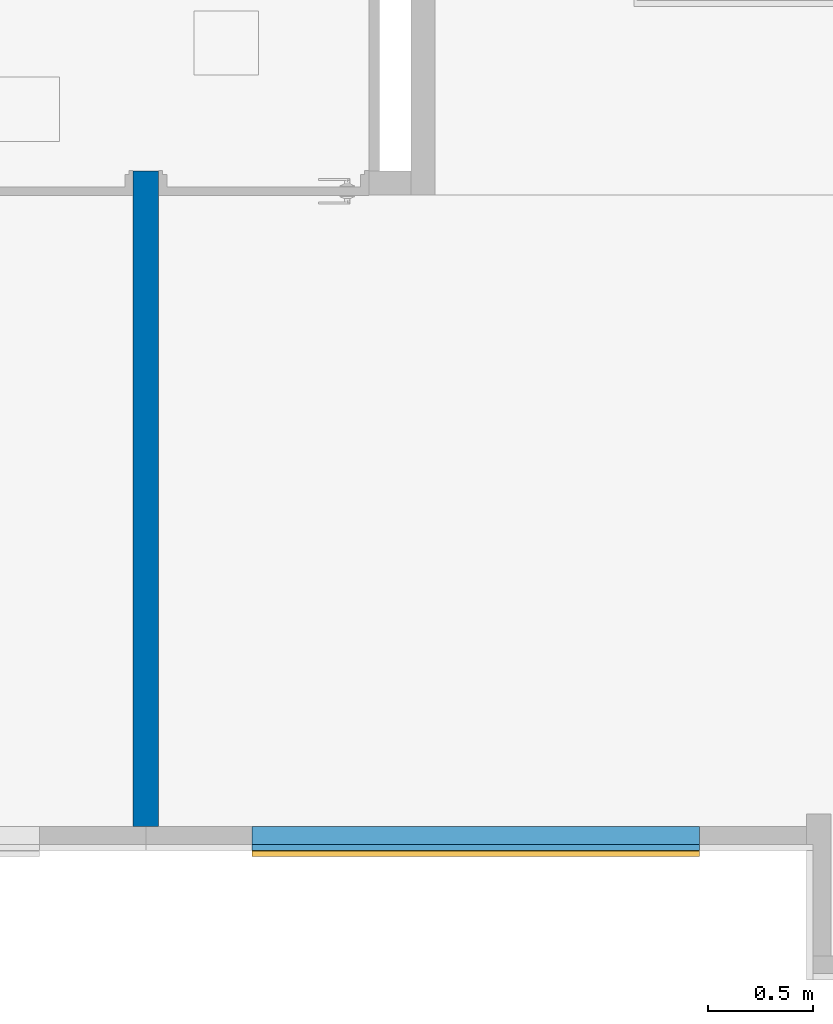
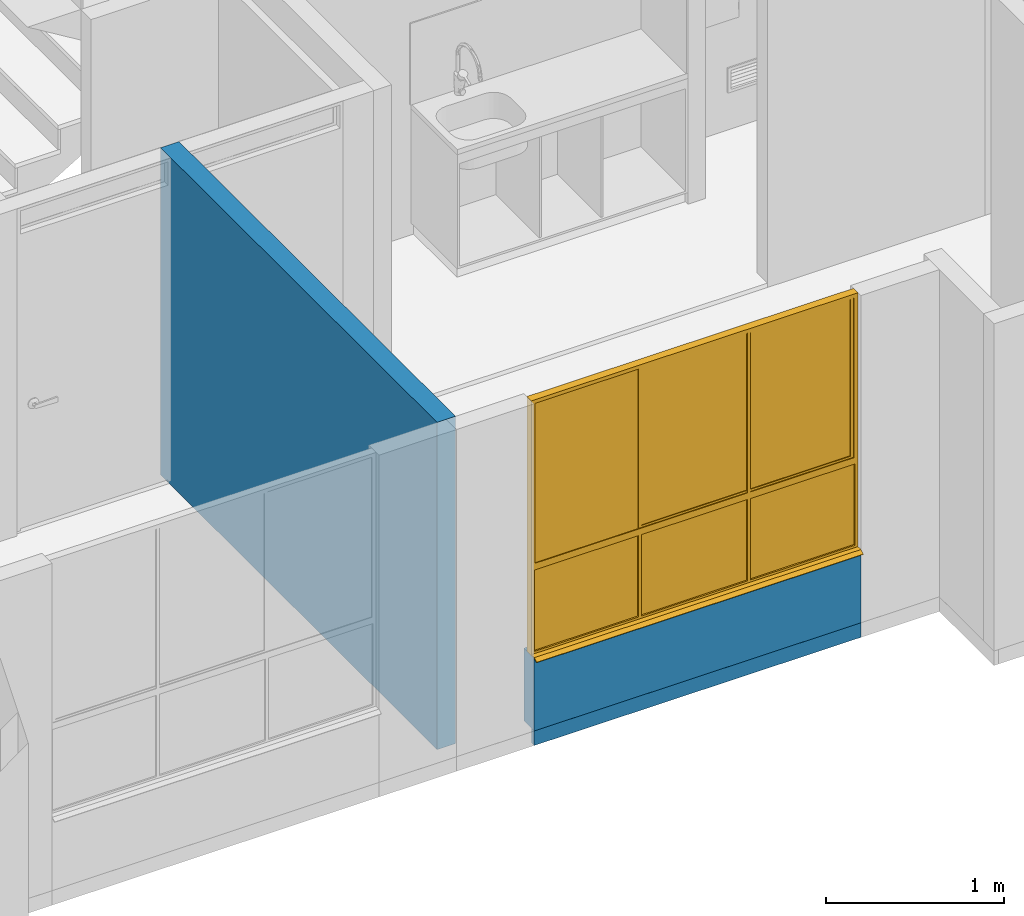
# One storey, part 9 of 48: 3 walls, 1 window, 1 opening.
"""IFC4 building model written with IfcOpenShell, lengths in metres."""

from ifc_helpers import new_model, entity, si_unit, converted_unit, derived_unit, direction, frame, origin, place, context, subcontext, project, spatial, indexed_curve, outline, extrude, polygons, source, transform, mapped, material, constituent, constituent_set, type_object, type_shapes, element, fill, save


model = new_model("IFC4")

# Units and contexts
model_context = context("Model", 3, precision=1e-05, world=origin(), true_north=direction((6.123031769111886e-17, 1.0)))
body_context = subcontext(model_context, "Body", "Model", "MODEL_VIEW")
ifc_project = project(units=[si_unit("LENGTHUNIT", "METRE"), si_unit("AREAUNIT", "SQUARE_METRE"), si_unit("VOLUMEUNIT", "CUBIC_METRE"), converted_unit("PLANEANGLEUNIT", "DEGREE", entity("IfcRatioMeasure", 0.017453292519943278), si_unit("PLANEANGLEUNIT", "RADIAN"), dimensions=[0, 0, 0, 0, 0, 0, 0]), si_unit("MASSUNIT", "GRAM", prefix="KILO"), derived_unit("MASSDENSITYUNIT", [(si_unit("MASSUNIT", "GRAM", prefix="KILO"), 1), (si_unit("LENGTHUNIT", "METRE"), -3)]), derived_unit("IONCONCENTRATIONUNIT", [(si_unit("MASSUNIT", "GRAM", prefix="KILO"), 1), (si_unit("LENGTHUNIT", "METRE"), -3)]), derived_unit("MOMENTOFINERTIAUNIT", [(si_unit("LENGTHUNIT", "METRE"), 4)]), si_unit("TIMEUNIT", "SECOND"), si_unit("FREQUENCYUNIT", "HERTZ"), si_unit("THERMODYNAMICTEMPERATUREUNIT", "DEGREE_CELSIUS"), derived_unit("THERMALTRANSMITTANCEUNIT", [(si_unit("MASSUNIT", "GRAM", prefix="KILO"), 1), (si_unit("THERMODYNAMICTEMPERATUREUNIT", "KELVIN"), -1), (si_unit("TIMEUNIT", "SECOND"), -3)]), derived_unit("THERMALCONDUCTANCEUNIT", [(si_unit("MASSUNIT", "GRAM", prefix="KILO"), 1), (si_unit("THERMODYNAMICTEMPERATUREUNIT", "KELVIN"), -1), (si_unit("TIMEUNIT", "SECOND"), -3), (si_unit("LENGTHUNIT", "METRE"), 1)]), derived_unit("VOLUMETRICFLOWRATEUNIT", [(si_unit("LENGTHUNIT", "METRE"), 3), (si_unit("TIMEUNIT", "SECOND"), -1)]), derived_unit("MASSFLOWRATEUNIT", [(si_unit("MASSUNIT", "GRAM", prefix="KILO"), 1), (si_unit("TIMEUNIT", "SECOND"), -1)]), derived_unit("ROTATIONALFREQUENCYUNIT", [(si_unit("TIMEUNIT", "SECOND"), -1)]), si_unit("ELECTRICCURRENTUNIT", "AMPERE"), si_unit("ELECTRICVOLTAGEUNIT", "VOLT"), si_unit("POWERUNIT", "WATT"), si_unit("FORCEUNIT", "NEWTON", prefix="KILO"), si_unit("ILLUMINANCEUNIT", "LUX"), si_unit("LUMINOUSFLUXUNIT", "LUMEN"), si_unit("LUMINOUSINTENSITYUNIT", "CANDELA"), derived_unit("USERDEFINED", [(si_unit("MASSUNIT", "GRAM", prefix="KILO"), -1), (si_unit("LENGTHUNIT", "METRE"), -2), (si_unit("TIMEUNIT", "SECOND"), 3), (si_unit("LUMINOUSFLUXUNIT", "LUMEN"), 1)]), derived_unit("USERDEFINED", [(si_unit("MASSUNIT", "GRAM", prefix="KILO"), 1), (si_unit("TIMEUNIT", "SECOND"), -3), (si_unit("LENGTHUNIT", "METRE"), 3), (si_unit("ELECTRICCURRENTUNIT", "AMPERE"), -2)]), derived_unit("SOUNDPOWERUNIT", [(si_unit("MASSUNIT", "GRAM", prefix="KILO"), 1), (si_unit("TIMEUNIT", "SECOND"), -3), (si_unit("LENGTHUNIT", "METRE"), 2)]), derived_unit("SOUNDPRESSUREUNIT", [(si_unit("MASSUNIT", "GRAM", prefix="KILO"), 1), (si_unit("LENGTHUNIT", "METRE"), -1), (si_unit("TIMEUNIT", "SECOND"), -2)]), derived_unit("LINEARVELOCITYUNIT", [(si_unit("LENGTHUNIT", "METRE"), 1), (si_unit("TIMEUNIT", "SECOND"), -1)]), si_unit("PRESSUREUNIT", "PASCAL"), derived_unit("USERDEFINED", [(si_unit("MASSUNIT", "GRAM", prefix="KILO"), 1), (si_unit("LENGTHUNIT", "METRE"), -2), (si_unit("TIMEUNIT", "SECOND"), -2)]), derived_unit("LINEARFORCEUNIT", [(si_unit("MASSUNIT", "GRAM", prefix="KILO"), 1), (si_unit("TIMEUNIT", "SECOND"), -2)]), derived_unit("PLANARFORCEUNIT", [(si_unit("MASSUNIT", "GRAM", prefix="KILO"), 1), (si_unit("LENGTHUNIT", "METRE"), -1), (si_unit("TIMEUNIT", "SECOND"), -2)]), derived_unit("SPECIFICHEATCAPACITYUNIT", [(si_unit("THERMODYNAMICTEMPERATUREUNIT", "KELVIN"), -1), (si_unit("LENGTHUNIT", "METRE"), 2), (si_unit("TIMEUNIT", "SECOND"), -2)]), derived_unit("HEATINGVALUEUNIT", [(si_unit("LENGTHUNIT", "METRE"), 2), (si_unit("TIMEUNIT", "SECOND"), -2)]), derived_unit("VAPORPERMEABILITYUNIT", [(si_unit("LENGTHUNIT", "METRE"), -1), (si_unit("TIMEUNIT", "SECOND"), 1)]), derived_unit("DYNAMICVISCOSITYUNIT", [(si_unit("MASSUNIT", "GRAM", prefix="KILO"), 1), (si_unit("TIMEUNIT", "SECOND"), -1), (si_unit("LENGTHUNIT", "METRE"), -1)]), derived_unit("THERMALEXPANSIONCOEFFICIENTUNIT", [(si_unit("THERMODYNAMICTEMPERATUREUNIT", "KELVIN"), -1)]), derived_unit("MODULUSOFELASTICITYUNIT", [(si_unit("MASSUNIT", "GRAM", prefix="KILO"), 1), (si_unit("LENGTHUNIT", "METRE"), -1), (si_unit("TIMEUNIT", "SECOND"), -2)]), derived_unit("ISOTHERMALMOISTURECAPACITYUNIT", [(si_unit("LENGTHUNIT", "METRE"), 3), (si_unit("MASSUNIT", "GRAM", prefix="KILO"), -1)]), derived_unit("MOISTUREDIFFUSIVITYUNIT", [(si_unit("TIMEUNIT", "SECOND"), -1), (si_unit("LENGTHUNIT", "METRE"), 2)])], contexts=[model_context])

# Site, building, storey
site_placement = place(None, origin())
site = spatial("IfcSite", under=ifc_project, at=site_placement, Name="Default", CompositionType="ELEMENT")
building_placement = place(site_placement, origin())
building = spatial("IfcBuilding", under=site, at=building_placement, CompositionType="ELEMENT")
storey_placement = place(building_placement, frame((0.0, 0.0, 9.40000000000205)))
storey = spatial("IfcBuildingStorey", under=building, at=storey_placement, Name="Nivel 5", CompositionType="ELEMENT", Elevation=9.40000000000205)

# Wall
ifc_material_1 = material(Name="Concreto (Aire)", Category="Materials")
wall_type_1 = type_object("IfcWallType", Name="Basic Wall:B2010 - 0.12m - Muro interior en concreto", PredefinedType="STANDARD")
wall_1_placement = place(storey_placement, frame((9.322500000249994, -9.024999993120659, 0.0), z_axis=(0.0, 0.0, 1.0), x_axis=(0.0, -1.0, 0.0)))
element("IfcWall", 1, at=wall_1_placement, inside=storey, type_object=wall_type_1, material=ifc_material_1, Name="Basic Wall:B2010 - 0.12m - Muro interior en concreto", ObjectType="Basic Wall:B2010 - 0.12m - Muro interior en concreto", PredefinedType="NOTDEFINED", context=body_context, shape_type="SweptSolid", body=[
    extrude(outline(indexed_curve([(3.1150000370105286, 0.06000000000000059), (-1.0719303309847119e-16, 0.060000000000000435), (1.0719303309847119e-16, -0.060000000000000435), (3.1150000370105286, -0.06000000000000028), (3.1150000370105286, 0.06000000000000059)], self_intersect=False)), origin(), (0.0, 0.0, 1.0), 2.2500000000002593),
])

# Wall, opening, window
ifc_material_2 = material(Name="Ladrillo claro (Aire)", Category="Materials")
wall_type_2 = type_object("IfcWallType", Name="Basic Wall:B2010 - 0.115m - Muro exterior en mampostería - Ladrillo", PredefinedType="STANDARD")
wall_2_placement = place(storey_placement, frame((11.952500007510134, -12.197500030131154, 0.0), z_axis=(0.0, 0.0, 1.0), x_axis=(-1.0, 0.0, 0.0)))
wall_2 = element("IfcWall", 2, at=wall_2_placement, inside=storey, type_object=wall_type_2, material=ifc_material_2, Name="Basic Wall:B2010 - 0.115m - Muro exterior en mampostería - Ladrillo", ObjectType="Basic Wall:B2010 - 0.115m - Muro exterior en mampostería - Ladrillo", PredefinedType="NOTDEFINED", context=body_context, shape_type="Tessellation", body=[
    polygons([(1.6266871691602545e-15, -0.057499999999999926, -1.0828671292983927e-15), (2.1249999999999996, -0.057499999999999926, -1.0828671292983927e-15), (2.1249999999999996, -0.057499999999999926, 0.5000000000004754), (1.6266871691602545e-15, -0.057499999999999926, 0.5000000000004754), (2.1249999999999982, 0.057499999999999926, -1.0828671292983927e-15), (6.252360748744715e-16, 0.057499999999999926, -1.0828671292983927e-15), (6.252360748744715e-16, 0.057499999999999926, 0.5000000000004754), (2.1249999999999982, 0.057499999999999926, 0.5000000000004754)], [[[1, 2, 3, 4]], [[5, 6, 7, 8]], [[2, 1, 6, 5]], [[2, 5, 8, 3]], [[6, 1, 4, 7]], [[4, 3, 8, 7]]], closed=True),
])
opening_placement = place(wall_2_placement, frame((0.0, -0.057499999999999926, 0.5000000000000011)))
opening = element("IfcOpeningElement", 3, at=opening_placement, cuts=wall_2, Name="B2020 - 6c Ventana corrediza - Aluminio + Vidrio:B2020 -2.13m x 1.750m - Ventana corrediza 2C - Aluminio + Vidrio:1", PredefinedType="OPENING", context=body_context, shape_type="SweptSolid", body=[
    extrude(outline(indexed_curve([(0.0, 2.125), (0.0, 0.0), (1.7499999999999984, 0.0), (1.7499999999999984, 2.125), (0.0, 2.125)], self_intersect=False)), frame((0.0, 0.0, 0.0), z_axis=(0.0, 1.0, 0.0), x_axis=(0.0, 0.0, 1.0)), (0.0, 0.0, 1.0), 0.115),
])
ifc_material_3 = material(Name="Aluminio", Category="Materials")
ifc_constituent_1 = constituent(ifc_material_3, Name="Aluminio", Category="Materials")
ifc_material_4 = material(Name="Vidrio", Category="Materials")
ifc_constituent_2 = constituent(ifc_material_4, Name="Vidrio", Category="Materials")
ifc_material_5 = material(Name="Alfajía en aluminio", Category="Materials")
ifc_constituent_3 = constituent(ifc_material_5, Name="Alfajía en aluminio", Category="Materials")
ifc_constituent_set_1 = constituent_set(constituents=[ifc_constituent_1, ifc_constituent_2, ifc_constituent_3])
ifc_constituent_4 = constituent(ifc_material_3, Name="Aluminio", Category="Materials")
ifc_constituent_5 = constituent(ifc_material_4, Name="Vidrio", Category="Materials")
ifc_constituent_6 = constituent(ifc_material_5, Name="Alfajía en aluminio", Category="Materials")
ifc_constituent_set_2 = constituent_set(constituents=[ifc_constituent_4, ifc_constituent_5, ifc_constituent_6])
window_type = type_object("IfcWindowType", Name="B2020 - 6c Ventana corrediza - Aluminio + Vidrio:B2020 -2.13m x 1.750m - Ventana corrediza 2C - Aluminio + Vidrio", PartitioningType="NOTDEFINED", PredefinedType="WINDOW", material=ifc_constituent_set_2)
shared_shape = source(origin(), body_context, "Body", "Tessellation", [
    polygons([(1.3916666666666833, 0.03749999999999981, 1.7249999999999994), (1.3916666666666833, 0.03749999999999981, 0.6249999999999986), (1.391666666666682, 0.032499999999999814, 0.6249999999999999), (1.3916666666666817, 0.032499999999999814, 1.7249999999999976), (-0.6833333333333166, 0.03249999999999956, 0.6249999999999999), (-0.6833333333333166, 0.032499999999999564, 1.7249999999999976), (-0.7083333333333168, 0.03249999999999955, 0.5999999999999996), (1.4166666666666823, 0.032499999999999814, 0.5999999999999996), (1.4166666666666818, 0.032499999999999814, 1.749999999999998), (-0.7083333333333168, 0.03249999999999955, 1.749999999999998), (-0.6833333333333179, 0.03749999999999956, 0.6249999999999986), (-0.6833333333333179, 0.03749999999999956, 1.7249999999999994), (-0.6883333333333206, 0.03749999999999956, 0.6199999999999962), (-0.6883333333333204, 0.03749999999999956, 1.7300000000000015), (1.3966666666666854, 0.03749999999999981, 1.7300000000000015), (1.3966666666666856, 0.03749999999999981, 0.6199999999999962), (1.3966666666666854, 0.05499999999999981, 1.7300000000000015), (1.3966666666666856, 0.05499999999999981, 0.6199999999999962), (-0.6883333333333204, 0.05499999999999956, 0.6199999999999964), (-0.6883333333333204, 0.05499999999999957, 1.7300000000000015), (-0.6833333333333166, 0.05499999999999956, 0.6249999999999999), (-0.6833333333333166, 0.05499999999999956, 1.7249999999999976), (1.3916666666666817, 0.05499999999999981, 1.7249999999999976), (1.391666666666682, 0.05499999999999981, 0.6249999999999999), (1.3916666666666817, 0.05999999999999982, 1.7249999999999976), (1.391666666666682, 0.05999999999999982, 0.6249999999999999), (-0.6833333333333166, 0.059999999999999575, 0.6249999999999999), (-0.6833333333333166, 0.059999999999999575, 1.7249999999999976), (-0.7033333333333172, 0.05999999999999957, 0.6049999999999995), (-0.7033333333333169, 0.05999999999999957, 1.744999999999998), (1.411666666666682, 0.05999999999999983, 1.744999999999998), (1.4116666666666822, 0.05999999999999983, 0.6049999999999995), (1.411666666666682, 0.07749999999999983, 1.744999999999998), (1.4116666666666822, 0.07749999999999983, 0.6049999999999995), (-0.7033333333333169, 0.07749999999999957, 0.6049999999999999), (-0.7033333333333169, 0.07749999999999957, 1.744999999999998), (-0.6833333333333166, 0.07749999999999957, 0.6249999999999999), (-0.6833333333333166, 0.07749999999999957, 1.7249999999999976), (1.3916666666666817, 0.07749999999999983, 1.7249999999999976), (1.391666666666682, 0.07749999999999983, 0.6249999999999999), (1.3916666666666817, 0.08249999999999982, 1.7249999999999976), (1.391666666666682, 0.08249999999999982, 0.6249999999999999), (-0.6833333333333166, 0.08249999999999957, 0.6249999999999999), (-0.6833333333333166, 0.08249999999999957, 1.7249999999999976), (-0.7083333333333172, 0.08249999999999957, 0.5999999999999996), (-0.7083333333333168, 0.08249999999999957, 1.749999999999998), (1.4166666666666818, 0.08249999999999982, 1.749999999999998), (1.4166666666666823, 0.08249999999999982, 0.5999999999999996)], [[[1, 2, 3, 4]], [[7, 8, 9, 10], [5, 6, 4, 3]], [[2, 11, 5, 3]], [[13, 14, 15, 16], [11, 2, 1, 12]], [[17, 18, 16, 15]], [[18, 19, 13, 16]], [[19, 18, 17, 20], [21, 22, 23, 24]], [[25, 26, 24, 23]], [[26, 27, 21, 24]], [[29, 30, 31, 32], [27, 26, 25, 28]], [[33, 34, 32, 31]], [[34, 35, 29, 32]], [[35, 34, 33, 36], [37, 38, 39, 40]], [[41, 42, 40, 39]], [[42, 43, 37, 40]], [[45, 46, 47, 48], [43, 42, 41, 44]], [[9, 8, 48, 47]], [[8, 7, 45, 48]], [[11, 12, 6, 5]], [[19, 20, 14, 13]], [[27, 28, 22, 21]], [[35, 36, 30, 29]], [[43, 44, 38, 37]], [[7, 10, 46, 45]], [[12, 1, 4, 6]], [[20, 17, 15, 14]], [[28, 25, 23, 22]], [[36, 33, 31, 30]], [[44, 41, 39, 38]], [[10, 9, 47, 46]]], closed=True),
    polygons([(-0.009999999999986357, 0.08249999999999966, 0.6249999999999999), (0.010000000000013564, 0.08249999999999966, 0.6249999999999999), (0.010000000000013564, 0.05999999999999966, 0.6249999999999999), (-0.009999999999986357, 0.05999999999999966, 0.6249999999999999), (-0.009999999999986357, 0.08249999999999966, 1.7249999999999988), (-0.009999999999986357, 0.05999999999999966, 1.7249999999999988), (0.010000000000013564, 0.05999999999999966, 1.7249999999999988), (0.010000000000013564, 0.08249999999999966, 1.7249999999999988)], [[[1, 2, 3, 4]], [[5, 1, 4, 6]], [[6, 4, 3, 7]], [[7, 3, 2, 8]], [[8, 2, 1, 5]], [[5, 6, 7, 8]]], closed=True),
    polygons([(0.7108333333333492, 0.06674999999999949, 1.7299999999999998), (-0.6833333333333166, 0.06674999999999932, 1.7299999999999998), (-0.6833333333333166, 0.06674999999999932, 0.6174999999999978), (0.7108333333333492, 0.06674999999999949, 0.6174999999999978), (0.7108333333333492, 0.0707499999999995, 0.6174999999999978), (0.7108333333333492, 0.0707499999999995, 1.7299999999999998), (-0.6833333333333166, 0.07074999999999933, 0.6174999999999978), (-0.6833333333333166, 0.07074999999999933, 1.7299999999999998)], [[[1, 2, 3, 4]], [[4, 5, 6, 1]], [[3, 7, 5, 4]], [[2, 8, 7, 3]], [[6, 5, 7, 8]], [[1, 6, 8, 2]]], closed=True),
    polygons([(0.7108333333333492, 0.07074999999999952, 0.6225000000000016), (-0.6783333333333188, 0.07074999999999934, 0.6225000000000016), (-0.6783333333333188, 0.06674999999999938, 0.6225000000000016), (0.7108333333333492, 0.06674999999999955, 0.6225000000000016), (-0.6783333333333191, 0.07074999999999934, 1.730000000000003), (-0.6783333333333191, 0.06674999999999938, 1.730000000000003), (0.7108333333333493, 0.06674999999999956, 1.730000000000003), (-0.6633333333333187, 0.06674999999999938, 1.7150000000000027), (-0.6633333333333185, 0.06674999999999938, 0.637500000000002), (0.695833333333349, 0.06674999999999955, 0.637500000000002), (0.695833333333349, 0.06674999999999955, 1.7150000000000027), (0.7108333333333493, 0.07074999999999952, 1.730000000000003), (-0.6633333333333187, 0.07074999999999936, 0.637500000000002), (-0.6633333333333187, 0.07074999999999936, 1.7150000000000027), (0.695833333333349, 0.07074999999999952, 1.7150000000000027), (0.695833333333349, 0.07074999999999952, 0.6375000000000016), (0.695833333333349, 0.07549999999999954, 0.637500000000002), (-0.6633333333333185, 0.07549999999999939, 0.6375000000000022), (-0.6633333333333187, 0.07549999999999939, 1.7150000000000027), (0.695833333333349, 0.07549999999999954, 1.7150000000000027), (-0.6833333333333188, 0.07549999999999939, 0.6175000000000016), (-0.683333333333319, 0.07549999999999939, 1.735000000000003), (0.7158333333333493, 0.07549999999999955, 1.735000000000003), (0.7158333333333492, 0.07549999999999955, 0.6175000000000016), (0.7158333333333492, 0.06199999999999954, 0.6175000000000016), (-0.6833333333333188, 0.061999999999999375, 0.6175000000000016), (-0.683333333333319, 0.061999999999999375, 1.735000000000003), (0.7158333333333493, 0.06199999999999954, 1.735000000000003), (-0.6633333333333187, 0.06199999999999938, 0.637500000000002), (-0.6633333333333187, 0.06199999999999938, 1.7150000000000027), (0.695833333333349, 0.06199999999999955, 1.7150000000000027), (0.695833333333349, 0.06199999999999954, 0.6375000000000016)], [[[1, 2, 3, 4]], [[2, 5, 6, 3]], [[3, 6, 7, 4], [8, 9, 10, 11]], [[5, 2, 1, 12], [13, 14, 15, 16]], [[17, 18, 13, 16]], [[18, 19, 14, 13]], [[21, 22, 23, 24], [19, 18, 17, 20]], [[25, 26, 21, 24]], [[26, 27, 22, 21]], [[27, 26, 25, 28], [29, 30, 31, 32]], [[10, 9, 29, 32]], [[9, 8, 30, 29]], [[12, 1, 4, 7]], [[20, 17, 16, 15]], [[28, 25, 24, 23]], [[11, 10, 32, 31]], [[5, 12, 7, 6]], [[19, 20, 15, 14]], [[27, 28, 23, 22]], [[8, 11, 31, 30]]], closed=True),
    polygons([(1.3916666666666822, 0.04424999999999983, 1.7299999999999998), (0.7033333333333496, 0.04424999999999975, 1.7299999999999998), (0.7033333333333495, 0.04424999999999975, 0.6174999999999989), (1.391666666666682, 0.04424999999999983, 0.6174999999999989), (1.391666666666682, 0.04824999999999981, 0.6174999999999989), (1.3916666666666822, 0.04824999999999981, 1.7299999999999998), (0.7033333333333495, 0.048249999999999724, 0.6174999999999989), (0.7033333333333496, 0.048249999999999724, 1.7299999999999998)], [[[1, 2, 3, 4]], [[4, 5, 6, 1]], [[3, 7, 5, 4]], [[2, 8, 7, 3]], [[6, 5, 7, 8]], [[1, 6, 8, 2]]], closed=True),
    polygons([(1.391666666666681, 0.04824999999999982, 0.6224999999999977), (0.7033333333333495, 0.04824999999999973, 0.6224999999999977), (0.7033333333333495, 0.044249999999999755, 0.6224999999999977), (1.391666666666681, 0.04424999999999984, 0.6224999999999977), (0.7033333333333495, 0.04824999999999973, 1.729999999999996), (0.7033333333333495, 0.044249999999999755, 1.729999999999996), (1.391666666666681, 0.04424999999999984, 1.729999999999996), (0.7183333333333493, 0.044249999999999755, 1.714999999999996), (0.7183333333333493, 0.044249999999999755, 0.6374999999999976), (1.3766666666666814, 0.04424999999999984, 0.6374999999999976), (1.3766666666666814, 0.04424999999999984, 1.714999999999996), (1.391666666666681, 0.04824999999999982, 1.729999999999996), (0.7183333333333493, 0.04824999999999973, 0.6374999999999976), (0.7183333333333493, 0.04824999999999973, 1.714999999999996), (1.3766666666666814, 0.04824999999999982, 1.714999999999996), (1.3766666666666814, 0.04824999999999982, 0.6374999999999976), (1.3766666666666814, 0.052999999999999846, 0.6374999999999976), (0.7183333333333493, 0.05299999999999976, 0.6374999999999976), (0.7183333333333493, 0.05299999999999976, 1.714999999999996), (1.3766666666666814, 0.052999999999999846, 1.714999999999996), (0.6983333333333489, 0.052999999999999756, 0.6174999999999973), (0.6983333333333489, 0.05299999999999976, 1.7349999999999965), (1.3966666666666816, 0.052999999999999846, 1.7349999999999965), (1.3966666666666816, 0.052999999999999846, 0.6174999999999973), (1.3966666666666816, 0.03949999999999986, 0.6174999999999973), (0.6983333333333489, 0.03949999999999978, 0.6174999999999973), (0.6983333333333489, 0.03949999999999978, 1.7349999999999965), (1.3966666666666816, 0.03949999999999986, 1.7349999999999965), (0.7183333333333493, 0.039499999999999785, 0.6374999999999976), (0.7183333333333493, 0.03949999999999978, 1.714999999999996), (1.3766666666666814, 0.039499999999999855, 1.714999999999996), (1.3766666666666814, 0.039499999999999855, 0.6374999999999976)], [[[1, 2, 3, 4]], [[2, 5, 6, 3]], [[3, 6, 7, 4], [8, 9, 10, 11]], [[5, 2, 1, 12], [13, 14, 15, 16]], [[17, 18, 13, 16]], [[18, 19, 14, 13]], [[21, 22, 23, 24], [19, 18, 17, 20]], [[25, 26, 21, 24]], [[26, 27, 22, 21]], [[27, 26, 25, 28], [29, 30, 31, 32]], [[10, 9, 29, 32]], [[9, 8, 30, 29]], [[12, 1, 4, 7]], [[20, 17, 16, 15]], [[28, 25, 24, 23]], [[11, 10, 32, 31]], [[5, 12, 7, 6]], [[19, 20, 15, 14]], [[27, 28, 23, 22]], [[8, 11, 31, 30]]], closed=True),
    polygons([(-0.6883333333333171, 0.04424999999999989, 1.7299999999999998), (-0.6883333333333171, 0.04424999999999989, 0.6174999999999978), (1.3916666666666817, 0.04424999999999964, 0.6174999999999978), (1.3916666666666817, 0.04424999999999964, 1.7299999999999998), (1.3916666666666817, 0.04824999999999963, 0.6174999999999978), (1.3916666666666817, 0.04824999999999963, 1.7299999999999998), (-0.6883333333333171, 0.04824999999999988, 0.6174999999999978), (-0.6883333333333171, 0.04824999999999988, 1.7299999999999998)], [[[1, 2, 3, 4]], [[3, 5, 6, 4]], [[2, 7, 5, 3]], [[1, 8, 7, 2]], [[8, 6, 5, 7]], [[4, 6, 8, 1]]], closed=True),
    polygons([(1.3966666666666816, 0.06674999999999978, 1.7299999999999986), (-0.6883333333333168, 0.06674999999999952, 1.7299999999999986), (-0.6883333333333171, 0.06674999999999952, 0.6174999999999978), (1.3966666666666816, 0.06674999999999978, 0.6174999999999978), (1.3966666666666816, 0.07074999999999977, 0.6174999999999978), (1.3966666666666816, 0.07074999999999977, 1.7299999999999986), (-0.6883333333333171, 0.07074999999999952, 0.6174999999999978), (-0.6883333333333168, 0.07074999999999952, 1.7299999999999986)], [[[1, 2, 3, 4]], [[4, 5, 6, 1]], [[3, 7, 5, 4]], [[2, 8, 7, 3]], [[6, 5, 7, 8]], [[1, 6, 8, 2]]], closed=True),
    polygons([(1.3966666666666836, 0.06813901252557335, 0.5800000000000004), (-0.6883333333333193, 0.06813901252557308, 0.5800000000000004), (-0.6883333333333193, 0.06813901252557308, 0.019999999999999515), (1.3966666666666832, 0.06813901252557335, 0.019999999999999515), (1.3966666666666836, 0.07213901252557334, 0.5800000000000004), (1.3966666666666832, 0.07213901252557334, 0.019999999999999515), (-0.6883333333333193, 0.07213901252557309, 0.019999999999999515), (-0.6883333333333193, 0.07213901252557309, 0.5800000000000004)], [[[1, 2, 3, 4]], [[5, 6, 7, 8]], [[4, 6, 5, 1]], [[3, 7, 6, 4]], [[2, 8, 7, 3]], [[1, 5, 8, 2]]], closed=True),
    polygons([(-0.009999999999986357, 0.08250000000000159, 0.5799999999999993), (-0.009999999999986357, 0.03250000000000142, 0.5799999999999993), (0.010000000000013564, 0.03250000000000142, 0.5799999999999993), (0.010000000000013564, 0.08250000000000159, 0.5799999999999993), (-0.009999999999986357, 0.08250000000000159, 0.019999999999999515), (0.010000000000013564, 0.08250000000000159, 0.019999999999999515), (0.010000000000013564, 0.03250000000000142, 0.019999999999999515), (-0.009999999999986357, 0.03250000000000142, 0.019999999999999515)], [[[1, 2, 3, 4]], [[5, 6, 7, 8]], [[4, 6, 5, 1]], [[3, 7, 6, 4]], [[2, 8, 7, 3]], [[1, 5, 8, 2]]], closed=True),
    polygons([(1.4166666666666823, 0.08249999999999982, 2.707167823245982e-16), (-0.7083333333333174, 0.08249999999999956, 4.060751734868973e-16), (-0.7083333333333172, 0.08249999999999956, 0.5999999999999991), (1.4166666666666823, 0.08249999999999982, 0.5999999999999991), (0.6983333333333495, 0.08250000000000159, 0.5799999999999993), (-0.6883333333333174, 0.0825000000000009, 0.5799999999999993), (-0.6883333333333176, 0.0825000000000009, 0.020000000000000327), (0.6983333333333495, 0.08250000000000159, 0.01999999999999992), (0.7183333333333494, 0.08250000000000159, 0.01999999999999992), (1.3966666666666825, 0.08250000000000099, 0.020000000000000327), (1.3966666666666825, 0.08250000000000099, 0.5799999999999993), (0.7183333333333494, 0.08250000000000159, 0.5799999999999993), (0.7183333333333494, 0.03250000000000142, 0.5799999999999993), (0.7183333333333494, 0.03250000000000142, 0.01999999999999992), (1.4166666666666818, 0.03250000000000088, 0.5999999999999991), (-0.7083333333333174, 0.0325000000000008, 0.5999999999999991), (-0.7083333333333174, 0.0325000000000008, 4.060751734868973e-16), (1.4166666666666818, 0.03250000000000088, 4.060751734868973e-16), (1.3966666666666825, 0.032499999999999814, 0.5799999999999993), (1.3966666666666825, 0.032499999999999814, 0.020000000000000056), (0.6983333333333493, 0.03250000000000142, 0.01999999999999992), (-0.6883333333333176, 0.03249999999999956, 0.020000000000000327), (-0.6883333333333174, 0.03249999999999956, 0.5799999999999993), (0.6983333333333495, 0.03250000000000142, 0.5799999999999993)], [[[1, 2, 3, 4], [5, 6, 7, 8], [9, 10, 11, 12]], [[12, 13, 14, 9]], [[15, 16, 17, 18], [13, 19, 20, 14], [21, 22, 23, 24]], [[8, 21, 24, 5]], [[11, 10, 20, 19]], [[15, 18, 1, 4]], [[10, 9, 14, 20]], [[18, 17, 2, 1]], [[7, 6, 23, 22]], [[17, 16, 3, 2]], [[6, 5, 24, 23]], [[4, 3, 16, 15]], [[19, 13, 12, 11]], [[22, 21, 8, 7]]], closed=True),
    polygons([(0.6983333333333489, 0.07213901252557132, 0.5849999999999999), (-0.6883333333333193, 0.07213901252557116, 0.5849999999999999), (-0.6883333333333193, 0.06813901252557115, 0.5849999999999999), (0.6983333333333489, 0.06813901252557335, 0.5849999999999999), (0.6983333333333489, 0.07213901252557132, 0.019999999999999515), (0.6983333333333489, 0.06813901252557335, 0.019999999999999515), (-0.6883333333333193, 0.06813901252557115, 0.019999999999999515), (-0.6883333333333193, 0.07213901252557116, 0.019999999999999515)], [[[1, 2, 3, 4]], [[5, 6, 7, 8]], [[1, 5, 8, 2]], [[2, 8, 7, 3]], [[3, 7, 6, 4]], [[4, 6, 5, 1]]], closed=True),
    polygons([(1.4166666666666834, 0.11499999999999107, -4.060751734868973e-16), (1.416666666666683, 0.1409807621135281, -0.015000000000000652), (1.416666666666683, 0.14348076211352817, -0.010669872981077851), (1.4166666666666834, 0.11633974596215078, 0.0049999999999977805), (1.4166666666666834, 0.08249999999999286, 0.0049999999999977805), (1.4166666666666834, 0.08249999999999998, -4.060751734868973e-16), (-0.7083333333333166, 0.11499999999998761, -4.060751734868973e-16), (-0.7083333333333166, 0.08249999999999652, -4.060751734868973e-16), (-0.7083333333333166, 0.0824999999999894, 0.0049999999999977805), (-0.7083333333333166, 0.11633974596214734, 0.0049999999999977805), (-0.7083333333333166, 0.1434807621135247, -0.010669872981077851), (-0.7083333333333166, 0.14098076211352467, -0.015000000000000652)], [[[1, 2, 3, 4, 5, 6]], [[7, 8, 9, 10, 11, 12]], [[6, 8, 7, 1]], [[5, 9, 8, 6]], [[4, 10, 9, 5]], [[3, 11, 10, 4]], [[2, 12, 11, 3]], [[1, 7, 12, 2]]], closed=True),
    polygons([(0.7183333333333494, 0.07213901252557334, 0.5849999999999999), (0.7183333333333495, 0.06813901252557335, 0.5849999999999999), (1.3966666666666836, 0.06813901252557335, 0.5849999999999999), (1.3966666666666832, 0.07213901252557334, 0.5849999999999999), (0.7183333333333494, 0.07213901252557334, 0.019999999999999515), (1.3966666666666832, 0.07213901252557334, 0.019999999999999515), (1.3966666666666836, 0.06813901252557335, 0.019999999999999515), (0.7183333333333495, 0.06813901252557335, 0.019999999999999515)], [[[1, 2, 3, 4]], [[5, 6, 7, 8]], [[4, 6, 5, 1]], [[3, 7, 6, 4]], [[2, 8, 7, 3]], [[1, 5, 8, 2]]], closed=True),
])
type_shapes(window_type, [shared_shape])
window_placement = place(opening_placement, frame((0.7083333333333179, 0.0, 0.0)))
window = element("IfcWindow", 4, at=window_placement, inside=storey, type_object=window_type, material=ifc_constituent_set_1, Name="B2020 - 6c Ventana corrediza - Aluminio + Vidrio:B2020 -2.13m x 1.750m - Ventana corrediza 2C - Aluminio + Vidrio", ObjectType="B2020 - 6c Ventana corrediza - Aluminio + Vidrio:B2020 -2.13m x 1.750m - Ventana corrediza 2C - Aluminio + Vidrio", OverallHeight=1.7499999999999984, OverallWidth=2.125, PartitioningType="NOTDEFINED", PredefinedType="WINDOW", context=body_context, shape_type="MappedRepresentation", body=[
    mapped(shared_shape, transform((0.0, 0.0, 0.0), scale=1.0)),
])
fill(opening, window)

# Wall
ifc_material_6 = material(Name="LADRILLO CLARO", Category="Materials")
wall_type_3 = type_object("IfcWallType", Name="Basic Wall:B2010 - 0.03m - ME enchape  no estructural - Ladrillo", PredefinedType="STANDARD")
wall_3_placement = place(storey_placement, frame((9.827500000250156, -12.240000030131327, -0.1000000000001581)))
element("IfcWall", 5, at=wall_3_placement, inside=storey, type_object=wall_type_3, material=ifc_material_6, Name="Basic Wall:B2010 - 0.03m - ME enchape  no estructural - Ladrillo", ObjectType="Basic Wall:B2010 - 0.03m - ME enchape  no estructural - Ladrillo", PredefinedType="NOTDEFINED", context=body_context, shape_type="SweptSolid", body=[
    extrude(outline(indexed_curve([(2.125000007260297, 0.015000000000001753), (-5.1729321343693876e-17, 0.015000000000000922), (5.1729321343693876e-17, -0.015000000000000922), (2.125000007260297, -0.01500000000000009), (2.125000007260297, 0.015000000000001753)], self_intersect=False)), origin(), (0.0, 0.0, 1.0), 0.09999999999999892),
])

save(model, "model.ifc")
